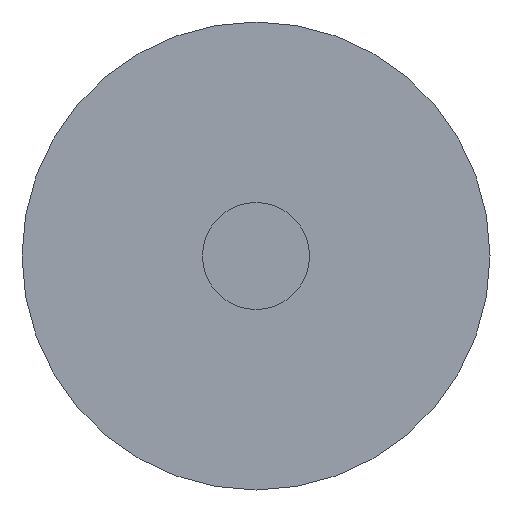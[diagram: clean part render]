
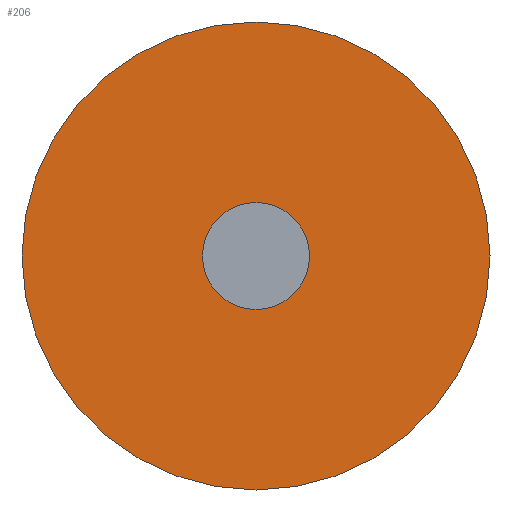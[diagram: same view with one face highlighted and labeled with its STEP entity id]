
A CAD part, left-side view. The second image highlights one B-rep face of the part: STEP entity #206.
In plain terms, the highlighted planar face has unit normal (-1, 0, 0).
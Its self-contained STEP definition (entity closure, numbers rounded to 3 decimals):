
#20=PLANE('',#239);
#33=FACE_BOUND('',#80,.T.);
#52=FACE_OUTER_BOUND('',#79,.T.);
#79=EDGE_LOOP('',(#169));
#80=EDGE_LOOP('',(#170));
#107=CIRCLE('',#234,4.);
#109=CIRCLE('',#240,17.5);
#125=VERTEX_POINT('',#358);
#127=VERTEX_POINT('',#366);
#143=EDGE_CURVE('',#125,#125,#107,.T.);
#145=EDGE_CURVE('',#127,#127,#109,.T.);
#169=ORIENTED_EDGE('',*,*,#145,.F.);
#170=ORIENTED_EDGE('',*,*,#143,.T.);
#206=ADVANCED_FACE('',(#52,#33),#20,.T.);
#234=AXIS2_PLACEMENT_3D('',#359,#290,#291);
#239=AXIS2_PLACEMENT_3D('',#365,#300,#301);
#240=AXIS2_PLACEMENT_3D('',#367,#302,#303);
#290=DIRECTION('center_axis',(1.,0.,0.));
#291=DIRECTION('ref_axis',(0.,1.,0.));
#300=DIRECTION('center_axis',(-1.,0.,0.));
#301=DIRECTION('ref_axis',(0.,0.,1.));
#302=DIRECTION('center_axis',(1.,0.,0.));
#303=DIRECTION('ref_axis',(0.,0.,-1.));
#358=CARTESIAN_POINT('',(-14.75,-4.,0.));
#359=CARTESIAN_POINT('Origin',(-14.75,0.,0.));
#365=CARTESIAN_POINT('Origin',(-14.75,17.5,0.));
#366=CARTESIAN_POINT('',(-14.75,17.5,0.));
#367=CARTESIAN_POINT('Origin',(-14.75,0.,0.));
